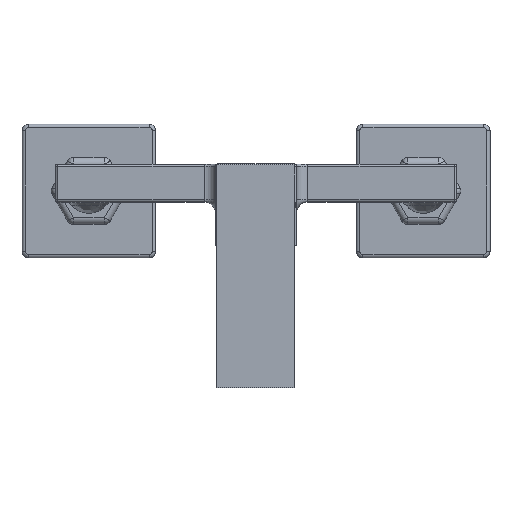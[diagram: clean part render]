
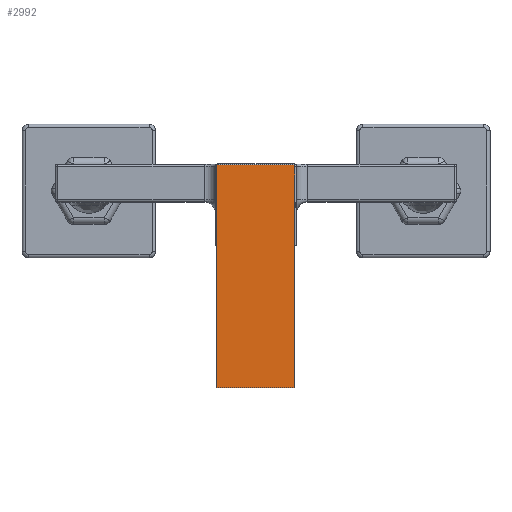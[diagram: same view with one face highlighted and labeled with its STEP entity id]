
A CAD part, top view. The second image highlights one B-rep face of the part: STEP entity #2992.
In plain terms, the highlighted planar face has unit normal (0, 0, 1).
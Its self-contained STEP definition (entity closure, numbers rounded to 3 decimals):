
#148=PLANE('',#3345);
#429=LINE('',#5398,#657);
#437=LINE('',#5414,#665);
#438=LINE('',#5417,#666);
#439=LINE('',#5418,#667);
#657=VECTOR('',#4189,10.);
#665=VECTOR('',#4205,10.);
#666=VECTOR('',#4208,10.);
#667=VECTOR('',#4209,10.);
#938=FACE_OUTER_BOUND('',#1130,.T.);
#1130=EDGE_LOOP('',(#2703,#2704,#2705,#2706));
#1539=VERTEX_POINT('',#5388);
#1543=VERTEX_POINT('',#5396);
#1547=VERTEX_POINT('',#5412);
#1548=VERTEX_POINT('',#5416);
#1929=EDGE_CURVE('',#1543,#1539,#429,.T.);
#1937=EDGE_CURVE('',#1543,#1547,#437,.T.);
#1938=EDGE_CURVE('',#1548,#1547,#438,.T.);
#1939=EDGE_CURVE('',#1539,#1548,#439,.T.);
#2703=ORIENTED_EDGE('',*,*,#1937,.T.);
#2704=ORIENTED_EDGE('',*,*,#1938,.F.);
#2705=ORIENTED_EDGE('',*,*,#1939,.F.);
#2706=ORIENTED_EDGE('',*,*,#1929,.F.);
#2992=ADVANCED_FACE('',(#938),#148,.T.);
#3345=AXIS2_PLACEMENT_3D('',#5415,#4206,#4207);
#4189=DIRECTION('',(0.,1.,0.));
#4205=DIRECTION('',(1.,0.,0.));
#4206=DIRECTION('center_axis',(0.,0.,1.));
#4207=DIRECTION('ref_axis',(0.,-1.,0.));
#4208=DIRECTION('',(0.,-1.,0.));
#4209=DIRECTION('',(1.,0.,0.));
#5388=CARTESIAN_POINT('',(-17.5,17.75,27.));
#5396=CARTESIAN_POINT('',(-17.5,-82.25,27.));
#5398=CARTESIAN_POINT('',(-17.5,17.75,27.));
#5412=CARTESIAN_POINT('',(17.5,-82.25,27.));
#5414=CARTESIAN_POINT('',(0.,-82.25,27.));
#5415=CARTESIAN_POINT('Origin',(0.,17.75,27.));
#5416=CARTESIAN_POINT('',(17.5,17.75,27.));
#5417=CARTESIAN_POINT('',(17.5,17.75,27.));
#5418=CARTESIAN_POINT('',(0.,17.75,27.));
